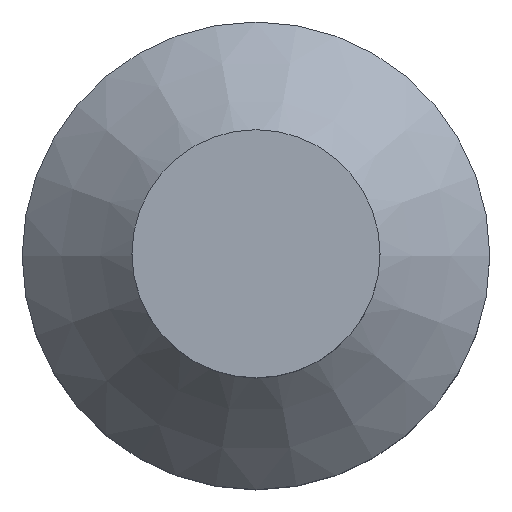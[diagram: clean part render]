
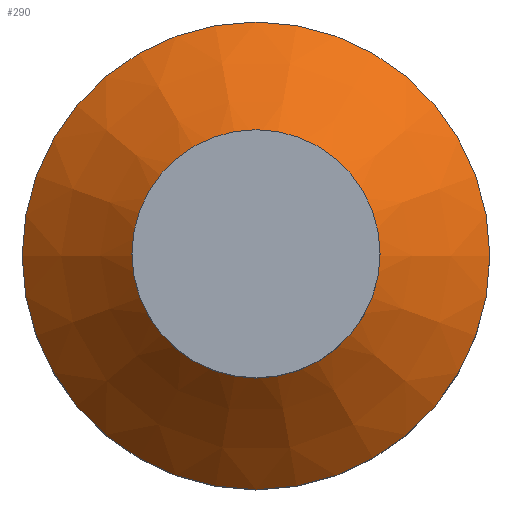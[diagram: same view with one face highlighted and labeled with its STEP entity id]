
A CAD part, top view. The second image highlights one B-rep face of the part: STEP entity #290.
In plain terms, the highlighted conical face has half-angle 45 degrees and reference radius 7.5 mm.
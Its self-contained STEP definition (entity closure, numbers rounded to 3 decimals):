
#61 = CYLINDRICAL_SURFACE('',#62,7.5);
#62 = AXIS2_PLACEMENT_3D('',#63,#64,#65);
#63 = CARTESIAN_POINT('',(0.,0.,0.));
#64 = DIRECTION('',(0.,0.,1.));
#65 = DIRECTION('',(1.,0.,-0.));
#137 = VERTEX_POINT('',#138);
#138 = CARTESIAN_POINT('',(7.5,0.,6.5));
#159 = EDGE_CURVE('',#137,#137,#160,.T.);
#160 = SURFACE_CURVE('',#161,(#166,#173),.PCURVE_S1.);
#161 = CIRCLE('',#162,7.5);
#162 = AXIS2_PLACEMENT_3D('',#163,#164,#165);
#163 = CARTESIAN_POINT('',(0.,0.,6.5));
#164 = DIRECTION('',(0.,0.,1.));
#165 = DIRECTION('',(1.,0.,-0.));
#166 = PCURVE('',#61,#167);
#167 = DEFINITIONAL_REPRESENTATION('',(#168),#172);
#168 = LINE('',#169,#170);
#169 = CARTESIAN_POINT('',(0.,6.5));
#170 = VECTOR('',#171,1.);
#171 = DIRECTION('',(1.,0.));
#172 = ( GEOMETRIC_REPRESENTATION_CONTEXT(2) 
PARAMETRIC_REPRESENTATION_CONTEXT() REPRESENTATION_CONTEXT('2D SPACE',''
  ) );
#173 = PCURVE('',#174,#179);
#174 = CONICAL_SURFACE('',#175,7.5,0.785);
#175 = AXIS2_PLACEMENT_3D('',#176,#177,#178);
#176 = CARTESIAN_POINT('',(0.,0.,6.5));
#177 = DIRECTION('',(-0.,-0.,-1.));
#178 = DIRECTION('',(1.,0.,-0.));
#179 = DEFINITIONAL_REPRESENTATION('',(#180),#184);
#180 = LINE('',#181,#182);
#181 = CARTESIAN_POINT('',(6.283,0.));
#182 = VECTOR('',#183,1.);
#183 = DIRECTION('',(-1.,0.));
#184 = ( GEOMETRIC_REPRESENTATION_CONTEXT(2) 
PARAMETRIC_REPRESENTATION_CONTEXT() REPRESENTATION_CONTEXT('2D SPACE',''
  ) );
#290 = ADVANCED_FACE('',(#291),#174,.T.);
#291 = FACE_BOUND('',#292,.T.);
#292 = EDGE_LOOP('',(#293,#294,#317,#344));
#293 = ORIENTED_EDGE('',*,*,#159,.T.);
#294 = ORIENTED_EDGE('',*,*,#295,.T.);
#295 = EDGE_CURVE('',#137,#296,#298,.T.);
#296 = VERTEX_POINT('',#297);
#297 = CARTESIAN_POINT('',(3.75,0.,10.25));
#298 = SEAM_CURVE('',#299,(#303,#310),.PCURVE_S1.);
#299 = LINE('',#300,#301);
#300 = CARTESIAN_POINT('',(7.5,0.,6.5));
#301 = VECTOR('',#302,1.);
#302 = DIRECTION('',(-0.707,0.,0.707));
#303 = PCURVE('',#174,#304);
#304 = DEFINITIONAL_REPRESENTATION('',(#305),#309);
#305 = LINE('',#306,#307);
#306 = CARTESIAN_POINT('',(0.,0.));
#307 = VECTOR('',#308,1.);
#308 = DIRECTION('',(-0.,-1.));
#309 = ( GEOMETRIC_REPRESENTATION_CONTEXT(2) 
PARAMETRIC_REPRESENTATION_CONTEXT() REPRESENTATION_CONTEXT('2D SPACE',''
  ) );
#310 = PCURVE('',#174,#311);
#311 = DEFINITIONAL_REPRESENTATION('',(#312),#316);
#312 = LINE('',#313,#314);
#313 = CARTESIAN_POINT('',(6.283,0.));
#314 = VECTOR('',#315,1.);
#315 = DIRECTION('',(-0.,-1.));
#316 = ( GEOMETRIC_REPRESENTATION_CONTEXT(2) 
PARAMETRIC_REPRESENTATION_CONTEXT() REPRESENTATION_CONTEXT('2D SPACE',''
  ) );
#317 = ORIENTED_EDGE('',*,*,#318,.F.);
#318 = EDGE_CURVE('',#296,#296,#319,.T.);
#319 = SURFACE_CURVE('',#320,(#325,#332),.PCURVE_S1.);
#320 = CIRCLE('',#321,3.75);
#321 = AXIS2_PLACEMENT_3D('',#322,#323,#324);
#322 = CARTESIAN_POINT('',(0.,0.,10.25));
#323 = DIRECTION('',(0.,0.,1.));
#324 = DIRECTION('',(1.,0.,-0.));
#325 = PCURVE('',#174,#326);
#326 = DEFINITIONAL_REPRESENTATION('',(#327),#331);
#327 = LINE('',#328,#329);
#328 = CARTESIAN_POINT('',(6.283,-3.75));
#329 = VECTOR('',#330,1.);
#330 = DIRECTION('',(-1.,0.));
#331 = ( GEOMETRIC_REPRESENTATION_CONTEXT(2) 
PARAMETRIC_REPRESENTATION_CONTEXT() REPRESENTATION_CONTEXT('2D SPACE',''
  ) );
#332 = PCURVE('',#333,#338);
#333 = CYLINDRICAL_SURFACE('',#334,3.75);
#334 = AXIS2_PLACEMENT_3D('',#335,#336,#337);
#335 = CARTESIAN_POINT('',(0.,0.,10.25));
#336 = DIRECTION('',(0.,0.,1.));
#337 = DIRECTION('',(1.,0.,-0.));
#338 = DEFINITIONAL_REPRESENTATION('',(#339),#343);
#339 = LINE('',#340,#341);
#340 = CARTESIAN_POINT('',(0.,0.));
#341 = VECTOR('',#342,1.);
#342 = DIRECTION('',(1.,0.));
#343 = ( GEOMETRIC_REPRESENTATION_CONTEXT(2) 
PARAMETRIC_REPRESENTATION_CONTEXT() REPRESENTATION_CONTEXT('2D SPACE',''
  ) );
#344 = ORIENTED_EDGE('',*,*,#295,.F.);
